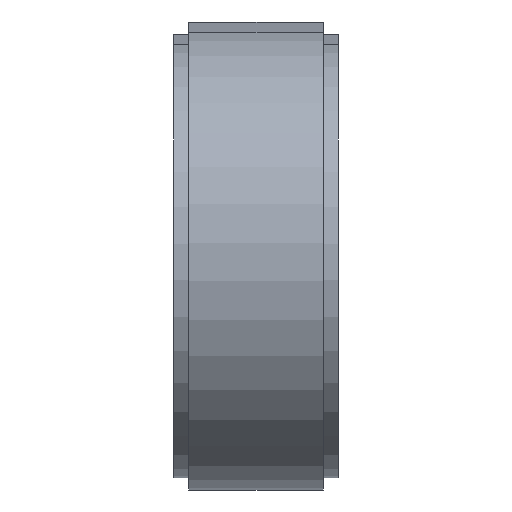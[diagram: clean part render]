
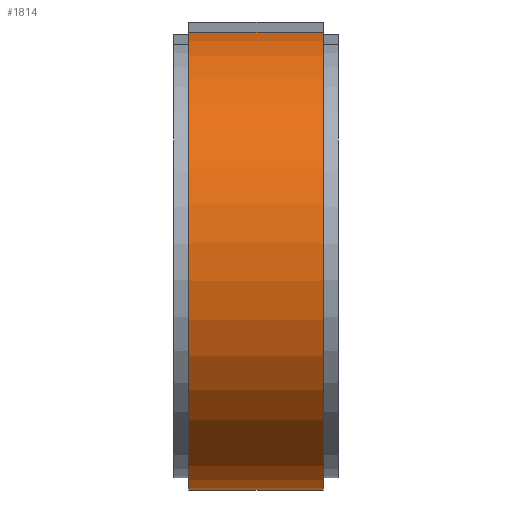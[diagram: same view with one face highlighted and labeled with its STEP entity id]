
A CAD part, left-side view. The second image highlights one B-rep face of the part: STEP entity #1814.
In plain terms, the highlighted cylindrical face has radius 75.5 mm (diameter 151 mm), a partial arc.
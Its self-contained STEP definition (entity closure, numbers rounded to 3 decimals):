
#188=FACE_OUTER_BOUND('',#300,.T.);
#300=EDGE_LOOP('',(#1537,#1538,#1539,#1540));
#455=LINE('',#2973,#623);
#461=LINE('',#2985,#629);
#623=VECTOR('',#2474,10.);
#629=VECTOR('',#2484,10.);
#713=CIRCLE('',#2002,75.5);
#714=CIRCLE('',#2003,75.5);
#861=VERTEX_POINT('',#2971);
#862=VERTEX_POINT('',#2972);
#865=VERTEX_POINT('',#2983);
#866=VERTEX_POINT('',#2984);
#1091=EDGE_CURVE('',#861,#862,#455,.T.);
#1097=EDGE_CURVE('',#865,#866,#461,.T.);
#1098=EDGE_CURVE('',#866,#862,#713,.T.);
#1099=EDGE_CURVE('',#865,#861,#714,.T.);
#1537=ORIENTED_EDGE('',*,*,#1097,.T.);
#1538=ORIENTED_EDGE('',*,*,#1098,.T.);
#1539=ORIENTED_EDGE('',*,*,#1091,.F.);
#1540=ORIENTED_EDGE('',*,*,#1099,.F.);
#1623=CYLINDRICAL_SURFACE('',#2001,75.5);
#1814=ADVANCED_FACE('',(#188),#1623,.T.);
#2001=AXIS2_PLACEMENT_3D('',#2982,#2482,#2483);
#2002=AXIS2_PLACEMENT_3D('',#2986,#2485,#2486);
#2003=AXIS2_PLACEMENT_3D('',#2987,#2487,#2488);
#2474=DIRECTION('',(0.,1.,0.));
#2482=DIRECTION('center_axis',(0.,-1.,0.));
#2483=DIRECTION('ref_axis',(-0.966,0.,-0.259));
#2484=DIRECTION('',(0.,1.,0.));
#2485=DIRECTION('center_axis',(0.,-1.,0.));
#2486=DIRECTION('ref_axis',(-0.139,0.,0.99));
#2487=DIRECTION('center_axis',(0.,-1.,0.));
#2488=DIRECTION('ref_axis',(-0.139,0.,0.99));
#2971=CARTESIAN_POINT('',(-219.717,-22.,-112.202));
#2972=CARTESIAN_POINT('',(-219.717,22.,-112.202));
#2973=CARTESIAN_POINT('',(-219.717,22.,-112.202));
#2982=CARTESIAN_POINT('Origin',(-248.,0.,-42.2));
#2983=CARTESIAN_POINT('',(-258.508,-22.,32.565));
#2984=CARTESIAN_POINT('',(-258.508,22.,32.565));
#2985=CARTESIAN_POINT('',(-258.508,22.,32.565));
#2986=CARTESIAN_POINT('Origin',(-248.,22.,-42.2));
#2987=CARTESIAN_POINT('Origin',(-248.,-22.,-42.2));
